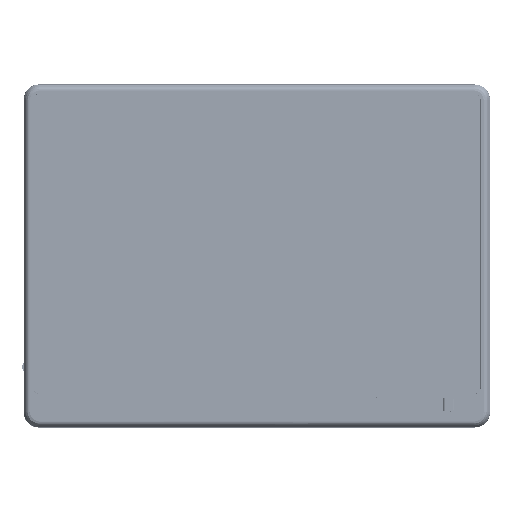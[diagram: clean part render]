
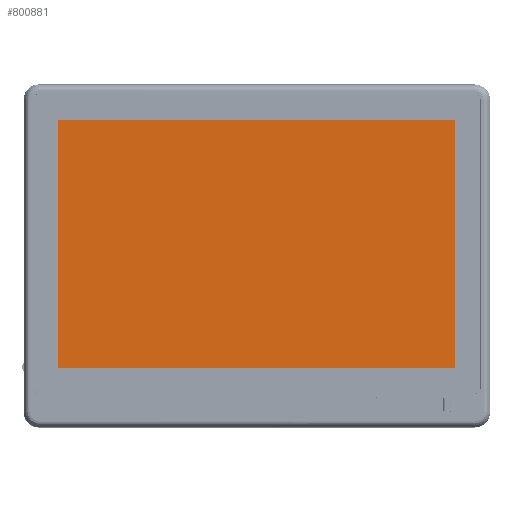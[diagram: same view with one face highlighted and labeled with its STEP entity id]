
A CAD part, top view. The second image highlights one B-rep face of the part: STEP entity #800881.
In plain terms, the highlighted planar face has unit normal (0, 0, 1).
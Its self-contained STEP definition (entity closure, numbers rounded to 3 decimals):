
#12078 = LINE ( 'NONE', #1127504, #268476 ) ;
#36970 = EDGE_CURVE ( 'NONE', #149731, #293166, #967808, .T. ) ;
#55285 = DIRECTION ( 'NONE',  ( 0., 0., -1. ) ) ;
#68458 = CARTESIAN_POINT ( 'NONE',  ( -479.774, -247.622, 321.554 ) ) ;
#90703 = EDGE_CURVE ( 'NONE', #978340, #1036911, #12078, .T. ) ;
#94208 = CARTESIAN_POINT ( 'NONE',  ( -32.241, 6.862, 321.554 ) ) ;
#129048 = FACE_OUTER_BOUND ( 'NONE', #961529, .T. ) ;
#149731 = VERTEX_POINT ( 'NONE', #947346 ) ;
#160425 = CARTESIAN_POINT ( 'NONE',  ( -163.341, -75.238, 321.554 ) ) ;
#162060 = CIRCLE ( 'NONE', #417352, 0.25 ) ;
#165362 = DIRECTION ( 'NONE',  ( 1., 0., 0. ) ) ;
#165734 = EDGE_CURVE ( 'NONE', #176627, #982773, #1109037, .T. ) ;
#176627 = VERTEX_POINT ( 'NONE', #1152619 ) ;
#186072 = VECTOR ( 'NONE', #1237924, 1000. ) ;
#191216 = DIRECTION ( 'NONE',  ( 1., 0., 0. ) ) ;
#201990 = LINE ( 'NONE', #389680, #1196953 ) ;
#216289 = LINE ( 'NONE', #1145160, #186072 ) ;
#255250 = ORIENTED_EDGE ( 'NONE', *, *, #165734, .F. ) ;
#258313 = PLANE ( 'NONE',  #308607 ) ;
#268476 = VECTOR ( 'NONE', #554550, 1000. ) ;
#293166 = VERTEX_POINT ( 'NONE', #1163758 ) ;
#308607 = AXIS2_PLACEMENT_3D ( 'NONE', #68458, #742389, #165362 ) ;
#369122 = AXIS2_PLACEMENT_3D ( 'NONE', #94208, #768251, #191216 ) ;
#370560 = VECTOR ( 'NONE', #551653, 1000. ) ;
#385428 = FACE_BOUND ( 'NONE', #914740, .T. ) ;
#389680 = CARTESIAN_POINT ( 'NONE',  ( 98.859, 88.962, 321.554 ) ) ;
#417352 = AXIS2_PLACEMENT_3D ( 'NONE', #632547, #55285, #729251 ) ;
#486642 = DIRECTION ( 'NONE',  ( 1., 0., 0. ) ) ;
#506702 = EDGE_CURVE ( 'NONE', #1036911, #176627, #201990, .T. ) ;
#551653 = DIRECTION ( 'NONE',  ( 0., -1., 0. ) ) ;
#554550 = DIRECTION ( 'NONE',  ( 0., 1., 0. ) ) ;
#599678 = CARTESIAN_POINT ( 'NONE',  ( 98.859, -75.238, 321.554 ) ) ;
#631420 = ORIENTED_EDGE ( 'NONE', *, *, #1079297, .T. ) ;
#632547 = CARTESIAN_POINT ( 'NONE',  ( -32.241, 6.862, 321.554 ) ) ;
#729251 = DIRECTION ( 'NONE',  ( 1., 0., 0. ) ) ;
#742389 = DIRECTION ( 'NONE',  ( 0., 0., 1. ) ) ;
#768251 = DIRECTION ( 'NONE',  ( 0., 0., -1. ) ) ;
#783940 = CARTESIAN_POINT ( 'NONE',  ( -163.341, 88.962, 321.554 ) ) ;
#800881 = ADVANCED_FACE ( 'NONE', ( #129048, #385428 ), #258313, .T. ) ;
#914740 = EDGE_LOOP ( 'NONE', ( #631420, #1036371 ) ) ;
#947346 = CARTESIAN_POINT ( 'NONE',  ( -31.991, 6.862, 321.554 ) ) ;
#961529 = EDGE_LOOP ( 'NONE', ( #255250, #1186778, #1187516, #1080232 ) ) ;
#967808 = CIRCLE ( 'NONE', #369122, 0.25 ) ;
#978340 = VERTEX_POINT ( 'NONE', #160425 ) ;
#982773 = VERTEX_POINT ( 'NONE', #599678 ) ;
#1027687 = CARTESIAN_POINT ( 'NONE',  ( 98.859, -75.238, 321.554 ) ) ;
#1036371 = ORIENTED_EDGE ( 'NONE', *, *, #36970, .T. ) ;
#1036911 = VERTEX_POINT ( 'NONE', #783940 ) ;
#1057490 = EDGE_CURVE ( 'NONE', #982773, #978340, #216289, .T. ) ;
#1079297 = EDGE_CURVE ( 'NONE', #293166, #149731, #162060, .T. ) ;
#1080232 = ORIENTED_EDGE ( 'NONE', *, *, #1057490, .F. ) ;
#1109037 = LINE ( 'NONE', #1027687, #370560 ) ;
#1127504 = CARTESIAN_POINT ( 'NONE',  ( -163.341, 88.962, 321.554 ) ) ;
#1145160 = CARTESIAN_POINT ( 'NONE',  ( -163.341, -75.238, 321.554 ) ) ;
#1152619 = CARTESIAN_POINT ( 'NONE',  ( 98.859, 88.962, 321.554 ) ) ;
#1163758 = CARTESIAN_POINT ( 'NONE',  ( -32.491, 6.862, 321.554 ) ) ;
#1186778 = ORIENTED_EDGE ( 'NONE', *, *, #506702, .F. ) ;
#1187516 = ORIENTED_EDGE ( 'NONE', *, *, #90703, .F. ) ;
#1196953 = VECTOR ( 'NONE', #486642, 1000. ) ;
#1237924 = DIRECTION ( 'NONE',  ( -1., 0., 0. ) ) ;
